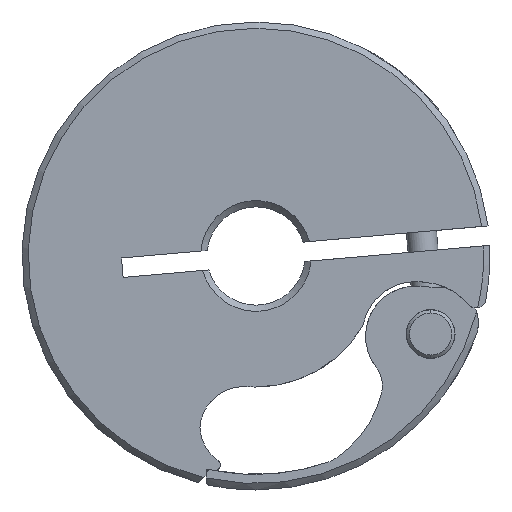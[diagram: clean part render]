
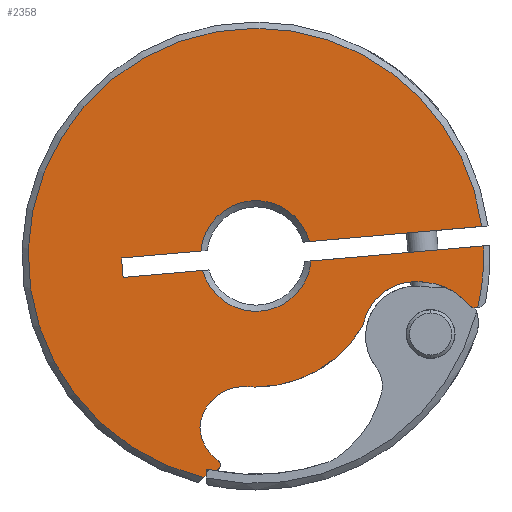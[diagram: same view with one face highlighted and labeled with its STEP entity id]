
A CAD part, front view. The second image highlights one B-rep face of the part: STEP entity #2358.
In plain terms, the highlighted planar face has unit normal (0, -1, 0).
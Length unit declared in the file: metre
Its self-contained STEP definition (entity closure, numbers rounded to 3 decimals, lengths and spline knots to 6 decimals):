
#312=DIRECTION('',(-0.996,0.,-0.087));
#313=VECTOR('',#312,0.006484);
#314=CARTESIAN_POINT('',(-0.00449,0.,0.000404));
#315=LINE('',#314,#313);
#316=DIRECTION('',(0.087,0.,-0.996));
#317=VECTOR('',#316,0.001587);
#318=CARTESIAN_POINT('',(-0.01095,0.,-0.000161));
#319=LINE('',#318,#317);
#320=DIRECTION('',(0.996,0.,0.087));
#321=VECTOR('',#320,0.006484);
#322=CARTESIAN_POINT('',(-0.010811,0.,-0.001743));
#323=LINE('',#322,#321);
#324=CARTESIAN_POINT('',(0.,0.,0.));
#325=DIRECTION('',(0.,-1.,0.));
#326=DIRECTION('',(-0.965,0.,-0.261));
#327=AXIS2_PLACEMENT_3D('',#324,#325,#326);
#329=CARTESIAN_POINT('',(0.,0.,0.));
#330=DIRECTION('',(0.,-1.,0.));
#331=DIRECTION('',(0.,0.,-1.));
#332=AXIS2_PLACEMENT_3D('',#329,#330,#331);
#334=DIRECTION('',(0.996,0.,0.087));
#335=VECTOR('',#334,0.014087);
#336=CARTESIAN_POINT('',(0.00449,0.,-0.000404));
#337=LINE('',#336,#335);
#338=CARTESIAN_POINT('',(0.,0.,0.));
#339=DIRECTION('',(0.,1.,0.));
#340=DIRECTION('',(0.999,0.,0.044));
#341=AXIS2_PLACEMENT_3D('',#338,#339,#340);
#343=CARTESIAN_POINT('',(0.017904,0.,-0.003403));
#344=DIRECTION('',(0.,1.,0.));
#345=DIRECTION('',(0.185,0.,-0.983));
#346=AXIS2_PLACEMENT_3D('',#343,#344,#345);
#348=CARTESIAN_POINT('',(0.017904,0.,-0.003403));
#349=DIRECTION('',(0.,1.,0.));
#350=DIRECTION('',(0.,0.,-1.));
#351=AXIS2_PLACEMENT_3D('',#348,#349,#350);
#353=CARTESIAN_POINT('',(0.013507,0.,-0.006999));
#354=DIRECTION('',(0.,-1.,0.));
#355=DIRECTION('',(0.774,0.,0.633));
#356=AXIS2_PLACEMENT_3D('',#353,#354,#355);
#358=CARTESIAN_POINT('',(0.01301,0.,-0.00645));
#359=DIRECTION('',(0.,-1.,0.));
#360=DIRECTION('',(0.18,0.,0.984));
#361=AXIS2_PLACEMENT_3D('',#358,#359,#360);
#363=CARTESIAN_POINT('',(0.01301,0.,-0.00645));
#364=DIRECTION('',(0.,-1.,0.));
#365=DIRECTION('',(0.,0.,1.));
#366=AXIS2_PLACEMENT_3D('',#363,#364,#365);
#368=CARTESIAN_POINT('',(-0.000039,0.,-0.000507));
#369=DIRECTION('',(0.,1.,0.));
#370=DIRECTION('',(0.861,0.,-0.508));
#371=AXIS2_PLACEMENT_3D('',#368,#369,#370);
#373=CARTESIAN_POINT('',(-0.000039,0.,-0.000507));
#374=DIRECTION('',(0.,1.,0.));
#375=DIRECTION('',(0.,0.,-1.));
#376=AXIS2_PLACEMENT_3D('',#373,#374,#375);
#378=CARTESIAN_POINT('',(-0.001016,0.,-0.014188));
#379=DIRECTION('',(0.,-1.,0.));
#380=DIRECTION('',(0.071,0.,0.997));
#381=AXIS2_PLACEMENT_3D('',#378,#379,#380);
#383=CARTESIAN_POINT('',(-0.001016,0.,-0.014188));
#384=DIRECTION('',(0.,-1.,0.));
#385=DIRECTION('',(0.,0.,1.));
#386=AXIS2_PLACEMENT_3D('',#383,#384,#385);
#388=CARTESIAN_POINT('',(-0.001016,0.,-0.013761));
#389=DIRECTION('',(0.,-1.,0.));
#390=DIRECTION('',(-0.998,0.,-0.06));
#391=AXIS2_PLACEMENT_3D('',#388,#389,#390);
#393=CARTESIAN_POINT('',(-0.003302,0.,-0.016967));
#394=DIRECTION('',(0.,1.,0.));
#395=DIRECTION('',(0.581,0.,0.814));
#396=AXIS2_PLACEMENT_3D('',#393,#394,#395);
#398=CARTESIAN_POINT('',(-0.003302,0.,-0.01708));
#399=DIRECTION('',(0.,1.,0.));
#400=DIRECTION('',(1.,0.,0.));
#401=AXIS2_PLACEMENT_3D('',#398,#399,#400);
#403=CARTESIAN_POINT('',(-0.003302,0.,-0.01708));
#404=DIRECTION('',(0.,1.,0.));
#405=DIRECTION('',(0.,0.,-1.));
#406=AXIS2_PLACEMENT_3D('',#403,#404,#405);
#408=DIRECTION('',(-0.988,0.,0.156));
#409=VECTOR('',#408,0.000711);
#410=CARTESIAN_POINT('',(-0.003362,0.,-0.017456));
#411=LINE('',#410,#409);
#412=DIRECTION('',(-0.707,0.,-0.707));
#413=VECTOR('',#412,0.000278);
#414=CARTESIAN_POINT('',(-0.004064,0.,-0.017849));
#415=LINE('',#414,#413);
#416=CARTESIAN_POINT('',(0.,0.,0.));
#417=DIRECTION('',(0.,1.,0.));
#418=DIRECTION('',(-0.23,0.,-0.973));
#419=AXIS2_PLACEMENT_3D('',#416,#417,#418);
#421=CARTESIAN_POINT('',(0.,0.,0.));
#422=DIRECTION('',(0.,1.,0.));
#423=DIRECTION('',(0.,0.,1.));
#424=AXIS2_PLACEMENT_3D('',#421,#422,#423);
#426=DIRECTION('',(-0.996,0.,-0.087));
#427=VECTOR('',#426,0.014087);
#428=CARTESIAN_POINT('',(0.018385,0.,0.002405));
#429=LINE('',#428,#427);
#430=CARTESIAN_POINT('',(0.,0.,0.));
#431=DIRECTION('',(0.,-1.,0.));
#432=DIRECTION('',(0.965,0.,0.261));
#433=AXIS2_PLACEMENT_3D('',#430,#431,#432);
#623=DIRECTION('',(0.,0.,1.));
#624=VECTOR('',#623,0.000113);
#625=CARTESIAN_POINT('',(-0.002921,0.,-0.01708));
#626=LINE('',#625,#624);
#895=DIRECTION('',(0.,0.,1.));
#896=VECTOR('',#895,0.000504);
#897=CARTESIAN_POINT('',(-0.004064,0.,-0.017849));
#898=LINE('',#897,#896);
#1795=CARTESIAN_POINT('',(0.018385,0.,0.002405));
#1796=CARTESIAN_POINT('',(0.004351,0.,0.001177));
#1797=VERTEX_POINT('',#1795);
#1798=VERTEX_POINT('',#1796);
#1808=CARTESIAN_POINT('',(0.018524,0.,0.000824));
#1809=CARTESIAN_POINT('',(0.018057,0.,-0.004214));
#1810=VERTEX_POINT('',#1808);
#1811=VERTEX_POINT('',#1809);
#1812=CARTESIAN_POINT('',(0.017904,0.,-0.004228));
#1813=VERTEX_POINT('',#1812);
#1814=CARTESIAN_POINT('',(0.017265,0.,-0.003926));
#1815=VERTEX_POINT('',#1814);
#1816=CARTESIAN_POINT('',(0.008712,0.,-0.005669));
#1817=CARTESIAN_POINT('',(-0.000039,0.,-0.010667));
#1818=VERTEX_POINT('',#1816);
#1819=VERTEX_POINT('',#1817);
#1820=CARTESIAN_POINT('',(-0.000763,0.,-0.010641));
#1821=VERTEX_POINT('',#1820);
#1822=CARTESIAN_POINT('',(-0.001016,0.,-0.010632));
#1823=VERTEX_POINT('',#1822);
#1824=CARTESIAN_POINT('',(-0.004566,0.,-0.013974));
#1825=VERTEX_POINT('',#1824);
#1826=CARTESIAN_POINT('',(-0.003081,0.,-0.016656));
#1827=VERTEX_POINT('',#1826);
#1828=CARTESIAN_POINT('',(-0.002921,0.,-0.016967));
#1829=VERTEX_POINT('',#1828);
#1830=CARTESIAN_POINT('',(-0.002921,0.,-0.01708));
#1831=VERTEX_POINT('',#1830);
#1832=CARTESIAN_POINT('',(-0.003302,0.,-0.017461));
#1833=VERTEX_POINT('',#1832);
#1834=CARTESIAN_POINT('',(-0.003362,0.,-0.017456));
#1835=VERTEX_POINT('',#1834);
#1836=CARTESIAN_POINT('',(-0.004064,0.,-0.017345));
#1837=VERTEX_POINT('',#1836);
#1838=CARTESIAN_POINT('',(-0.004064,0.,-0.017849));
#1839=VERTEX_POINT('',#1838);
#1840=CARTESIAN_POINT('',(-0.00426,0.,-0.018046));
#1841=VERTEX_POINT('',#1840);
#1849=CARTESIAN_POINT('',(-0.00449,0.,0.000404));
#1850=CARTESIAN_POINT('',(-0.01095,0.,-0.000161));
#1851=VERTEX_POINT('',#1849);
#1852=VERTEX_POINT('',#1850);
#1859=CARTESIAN_POINT('',(-0.010811,0.,-0.001743));
#1860=VERTEX_POINT('',#1859);
#1861=CARTESIAN_POINT('',(-0.004351,0.,-0.001177));
#1862=VERTEX_POINT('',#1861);
#1876=CARTESIAN_POINT('',(0.00449,0.,-0.000404));
#1877=VERTEX_POINT('',#1876);
#1886=CARTESIAN_POINT('',(0.013798,0.,-0.002153));
#1887=VERTEX_POINT('',#1886);
#1893=CARTESIAN_POINT('',(0.01301,0.,-0.002082));
#1894=VERTEX_POINT('',#1893);
#1905=CARTESIAN_POINT('',(0.,0.,0.018542));
#1906=VERTEX_POINT('',#1905);
#1911=CARTESIAN_POINT('',(0.,0.,-0.004508));
#1912=VERTEX_POINT('',#1911);
#2296=CARTESIAN_POINT('',(0.,0.,0.000248));
#2297=DIRECTION('',(0.,1.,0.));
#2298=DIRECTION('',(0.,0.,1.));
#2299=AXIS2_PLACEMENT_3D('',#2296,#2297,#2298);
#2300=PLANE('',#2299);
#2302=ORIENTED_EDGE('',*,*,#2301,.T.);
#2304=ORIENTED_EDGE('',*,*,#2303,.T.);
#2306=ORIENTED_EDGE('',*,*,#2305,.T.);
#2308=ORIENTED_EDGE('',*,*,#2307,.T.);
#2310=ORIENTED_EDGE('',*,*,#2309,.T.);
#2312=ORIENTED_EDGE('',*,*,#2311,.T.);
#2314=ORIENTED_EDGE('',*,*,#2313,.T.);
#2316=ORIENTED_EDGE('',*,*,#2315,.T.);
#2318=ORIENTED_EDGE('',*,*,#2317,.T.);
#2320=ORIENTED_EDGE('',*,*,#2319,.T.);
#2322=ORIENTED_EDGE('',*,*,#2321,.T.);
#2324=ORIENTED_EDGE('',*,*,#2323,.T.);
#2326=ORIENTED_EDGE('',*,*,#2325,.T.);
#2328=ORIENTED_EDGE('',*,*,#2327,.T.);
#2330=ORIENTED_EDGE('',*,*,#2329,.T.);
#2332=ORIENTED_EDGE('',*,*,#2331,.T.);
#2334=ORIENTED_EDGE('',*,*,#2333,.T.);
#2336=ORIENTED_EDGE('',*,*,#2335,.T.);
#2338=ORIENTED_EDGE('',*,*,#2337,.F.);
#2340=ORIENTED_EDGE('',*,*,#2339,.T.);
#2342=ORIENTED_EDGE('',*,*,#2341,.T.);
#2344=ORIENTED_EDGE('',*,*,#2343,.T.);
#2346=ORIENTED_EDGE('',*,*,#2345,.F.);
#2348=ORIENTED_EDGE('',*,*,#2347,.T.);
#2350=ORIENTED_EDGE('',*,*,#2349,.T.);
#2352=ORIENTED_EDGE('',*,*,#2351,.T.);
#2353=ORIENTED_EDGE('',*,*,#2273,.T.);
#2355=ORIENTED_EDGE('',*,*,#2354,.T.);
#2356=EDGE_LOOP('',(#2302,#2304,#2306,#2308,#2310,#2312,#2314,#2316,#2318,#2320,
#2322,#2324,#2326,#2328,#2330,#2332,#2334,#2336,#2338,#2340,#2342,#2344,#2346,
#2348,#2350,#2352,#2353,#2355));
#2357=FACE_OUTER_BOUND('',#2356,.F.);
#328=CIRCLE('',#327,0.004508);
#333=CIRCLE('',#332,0.004508);
#342=CIRCLE('',#341,0.018542);
#347=CIRCLE('',#346,0.000826);
#352=CIRCLE('',#351,0.000826);
#357=CIRCLE('',#356,0.004855);
#362=CIRCLE('',#361,0.004369);
#367=CIRCLE('',#366,0.004369);
#372=CIRCLE('',#371,0.01016);
#377=CIRCLE('',#376,0.01016);
#382=CIRCLE('',#381,0.003556);
#387=CIRCLE('',#386,0.003556);
#392=CIRCLE('',#391,0.003556);
#397=CIRCLE('',#396,0.000381);
#402=CIRCLE('',#401,0.000381);
#407=CIRCLE('',#406,0.000381);
#420=CIRCLE('',#419,0.018542);
#425=CIRCLE('',#424,0.018542);
#434=CIRCLE('',#433,0.004508);
#2273=EDGE_CURVE('',#1797,#1798,#429,.T.);
#2301=EDGE_CURVE('',#1851,#1852,#315,.T.);
#2303=EDGE_CURVE('',#1852,#1860,#319,.T.);
#2305=EDGE_CURVE('',#1860,#1862,#323,.T.);
#2307=EDGE_CURVE('',#1862,#1912,#328,.T.);
#2309=EDGE_CURVE('',#1912,#1877,#333,.T.);
#2311=EDGE_CURVE('',#1877,#1810,#337,.T.);
#2313=EDGE_CURVE('',#1810,#1811,#342,.T.);
#2315=EDGE_CURVE('',#1811,#1813,#347,.T.);
#2317=EDGE_CURVE('',#1813,#1815,#352,.T.);
#2319=EDGE_CURVE('',#1815,#1887,#357,.T.);
#2321=EDGE_CURVE('',#1887,#1894,#362,.T.);
#2323=EDGE_CURVE('',#1894,#1818,#367,.T.);
#2325=EDGE_CURVE('',#1818,#1819,#372,.T.);
#2327=EDGE_CURVE('',#1819,#1821,#377,.T.);
#2329=EDGE_CURVE('',#1821,#1823,#382,.T.);
#2331=EDGE_CURVE('',#1823,#1825,#387,.T.);
#2333=EDGE_CURVE('',#1825,#1827,#392,.T.);
#2335=EDGE_CURVE('',#1827,#1829,#397,.T.);
#2337=EDGE_CURVE('',#1831,#1829,#626,.T.);
#2339=EDGE_CURVE('',#1831,#1833,#402,.T.);
#2341=EDGE_CURVE('',#1833,#1835,#407,.T.);
#2343=EDGE_CURVE('',#1835,#1837,#411,.T.);
#2345=EDGE_CURVE('',#1839,#1837,#898,.T.);
#2347=EDGE_CURVE('',#1839,#1841,#415,.T.);
#2349=EDGE_CURVE('',#1841,#1906,#420,.T.);
#2351=EDGE_CURVE('',#1906,#1797,#425,.T.);
#2354=EDGE_CURVE('',#1798,#1851,#434,.T.);
#2358=ADVANCED_FACE('',(#2357),#2300,.F.);
